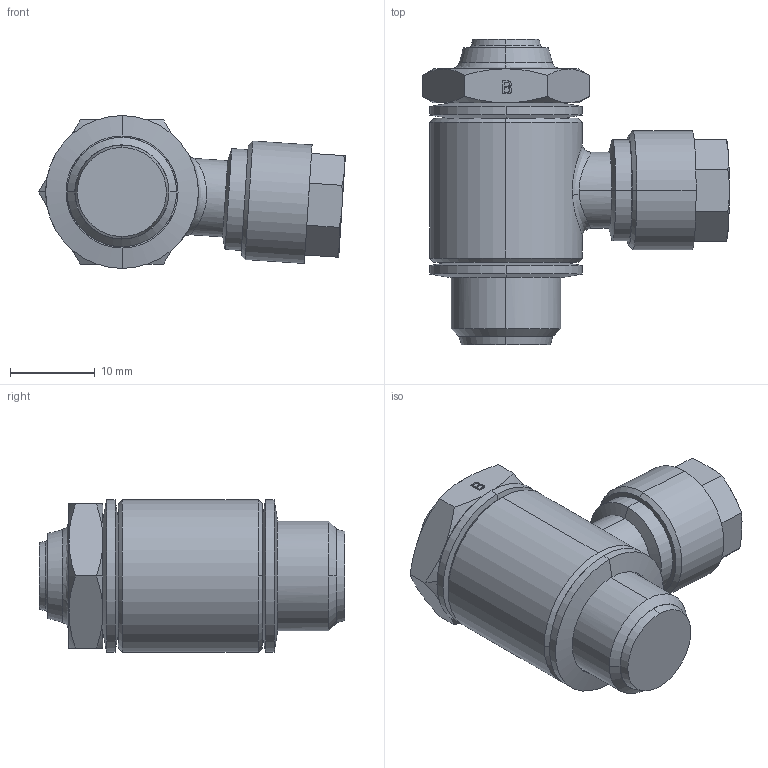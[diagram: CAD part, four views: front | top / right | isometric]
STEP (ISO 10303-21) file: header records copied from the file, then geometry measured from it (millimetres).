
FILE_DESCRIPTION (( 'STEP AP203' ), '1' );
FILE_NAME ('249876.STEP', '2016-09-22T08:19:08', ( '' ), ( '' ), 'SwSTEP 2.0', 'SolidWorks 2016', '' );
FILE_SCHEMA (( 'CONFIG_CONTROL_DESIGN' ));
Length unit declared in the file: millimetre
Products named in the file (1): 249876
Bounding box: 36.26 x 36.11 x 18.05 mm (x, y, z)
Volume: 9542.5 mm3; surface area: 3937.6 mm2
Topology: 1 solids, 1 shells, 169 faces, 426 edges, 269 vertices
Faces by surface type: plane 63, cylinder 45, cone 45, bspline 16
Entity records: 6794 total; most frequent: CARTESIAN_POINT 2629, DIRECTION 863, ORIENTED_EDGE 852, EDGE_CURVE 426, AXIS2_PLACEMENT_3D 353, VERTEX_POINT 269, EDGE_LOOP 203, CIRCLE 199
